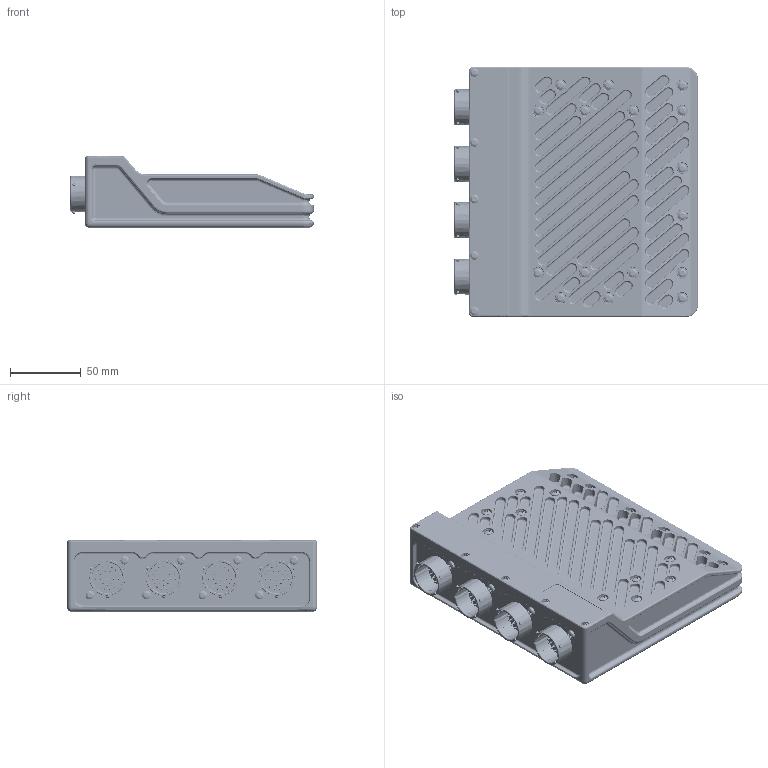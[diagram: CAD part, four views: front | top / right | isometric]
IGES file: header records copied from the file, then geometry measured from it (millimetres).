
Start section: START RECORD GO HERE.
Global section: file name: F90F-A Datasheet.igs; native system: DASSAULT SYSTEMES CATIA V5 R19 - www.3ds.com; preprocessor: CATIA Version 5 Release 19 SP 9 ; author: mark.labudek; organization: MAPRECISION; date: 20251121.152357; units: millimetre
Bounding box: 172.4 x 177 x 50.5 mm (x, y, z)
Surface area: 150579.2 mm2 (no closed solid volume)
Topology: 0 solids, 0 shells, 6762 faces, 31566 edges, 31503 vertices
Faces by surface type: revolution 4866, plane 1374, bspline 522
